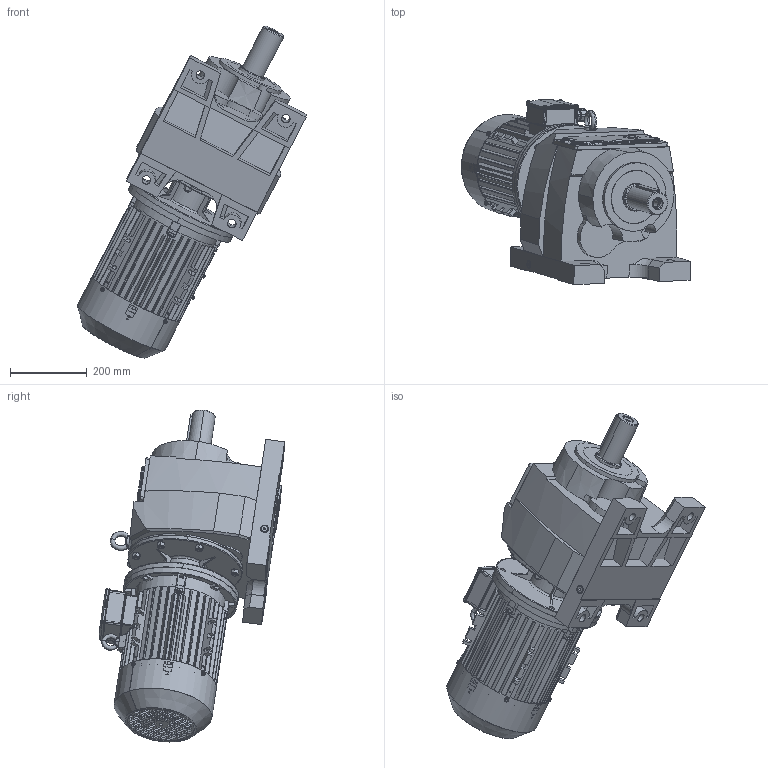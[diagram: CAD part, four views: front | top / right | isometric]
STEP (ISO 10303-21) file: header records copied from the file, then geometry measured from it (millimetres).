
FILE_DESCRIPTION (( 'STEP AP203' ), '1' );
FILE_NAME ('MV_573_0_MX-132S.STEP', '2018-11-27T08:31:41', ( '' ), ( '' ), 'SwSTEP 2.0', 'SolidWorks 2012', '' );
FILE_SCHEMA (( 'CONFIG_CONTROL_DESIGN' ));
Products named in the file (33): MV_573_0_MX-132S; MX3-132S_B5; cross recessed pan head screws gb_GB_CROSS_SCREWS_TYPE1 M5X25-25  H type-N_1; plain parallel keys_GB_CONNECTING_PIECE_KEYS_CSK 10X70_1; cross recessed pan head screws gb_GB_CROSS_SCREWS_TYPE1 M5X8-8  H type-N_1; hexagon socket head cap screws gb_GB_FASTENER_SCREWS_HSHCS M8X45-N; eyebolts gb_GB_FASTENER_SCREWS_FRS M10-S_1; plain washers--product grade c gb_GB_FASTENER_WASHER_SMWC 4_1; DMX-IE3 132S4 fan_1; circlips for shaft--type a large gb_GB_CONNECTING_PIECE_RING_RRA 29_1; DMX-IE3 132S4 grouding mark_1; DMX-IE3 132S4  cable glands_1; cross recessed pan head screws gb_GB_CROSS_SCREWS_TYPE1 M4X6-6  H type-N_1; DMX-IE3 132S4   gasket for terminal box cover_1; DMX-IE3 132S4   gasket for terminal box base_1; DMX-IE3 132S4  oil seal_1; DMX-IE3 132S4  connection board_1; hexagon socket head cap screws gb_GB_FASTENER_SCREWS_HSHCS M8X35-N_1; spring lock washers--normal type gb_GB_FASTENER_WASHER_SW 8_1; hexagon nuts grade c gb_GB_FASTENER_NUT_SNC1 M8-N_1; DMX-IE3 132S4   fan cover_1; cross recessed pan head screws gb_GB_CROSS_SCREWS_TYPE1 M5X10-10  H type-N_1; hex flange bolts-heavy grade b gb_GB_FASTENER_BOLT_HFBB M5X10-N_1; DMX-IE3 132S4  terminal box_1; DMX-IE3 132S4   rotor1_1; DMX-IE3 132S4  flange B3_1; DMX-IE3 132S4   terminal box cover_1; DMX-IE3 132S4   rotor2_1; DMX-IE3 132S4  casing_1; ML3A_Varsayìlan; 53132B5_Varsayìlan; DMX-IE3 132S4  flange B5; M573_Varsayìlan
Assembly tree (64 placements, depth 3):
  MV_573_0_MX-132S
    M573_Varsayìlan
    53132B5_Varsayìlan
    ML3A_Varsayìlan
    MX3-132S_B5
      DMX-IE3 132S4  casing_1
      DMX-IE3 132S4  flange B5
      DMX-IE3 132S4  flange B3_1
      DMX-IE3 132S4   rotor1_1
      DMX-IE3 132S4   rotor2_1
      DMX-IE3 132S4   terminal box cover_1
      DMX-IE3 132S4  terminal box_1
      DMX-IE3 132S4   fan cover_1
      hex flange bolts-heavy grade b gb_GB_FASTENER_BOLT_HFBB M5X10-N_1  x4
      cross recessed pan head screws gb_GB_CROSS_SCREWS_TYPE1 M5X10-10  H type-N_1  x4
      hexagon nuts grade c gb_GB_FASTENER_NUT_SNC1 M8-N_1  x7
      spring lock washers--normal type gb_GB_FASTENER_WASHER_SW 8_1  x8
      hexagon socket head cap screws gb_GB_FASTENER_SCREWS_HSHCS M8X35-N_1  x5
      DMX-IE3 132S4   gasket for terminal box base_1
      DMX-IE3 132S4  connection board_1
      DMX-IE3 132S4   gasket for terminal box cover_1
      DMX-IE3 132S4  oil seal_1
      DMX-IE3 132S4  cable glands_1  x2
      circlips for shaft--type a large gb_GB_CONNECTING_PIECE_RING_RRA 29_1
      DMX-IE3 132S4 grouding mark_1
      cross recessed pan head screws gb_GB_CROSS_SCREWS_TYPE1 M4X6-6  H type-N_1  x3
      eyebolts gb_GB_FASTENER_SCREWS_FRS M10-S_1
      plain washers--product grade c gb_GB_FASTENER_WASHER_SMWC 4_1
      hexagon socket head cap screws gb_GB_FASTENER_SCREWS_HSHCS M8X45-N  x3
      DMX-IE3 132S4 fan_1
      cross recessed pan head screws gb_GB_CROSS_SCREWS_TYPE1 M5X25-25  H type-N_1  x2
      cross recessed pan head screws gb_GB_CROSS_SCREWS_TYPE1 M5X8-8  H type-N_1  x4
      plain parallel keys_GB_CONNECTING_PIECE_KEYS_CSK 10X70_1
Bounding box: 597.1 x 482.99 x 864.43 mm (x, y, z)
Volume: 36238445.9 mm3; surface area: 2857108.9 mm2
Topology: 66 solids, 68 shells, 5124 faces, 13577 edges, 8765 vertices
Faces by surface type: plane 2832, cylinder 1257, cone 590, bspline 445
Entity records: 162912 total; most frequent: CARTESIAN_POINT 46591, ORIENTED_EDGE 23790, DIRECTION 22509, EDGE_CURVE 11895, VERTEX_POINT 7727, AXIS2_PLACEMENT_3D 7534, LINE 7441, VECTOR 7441
